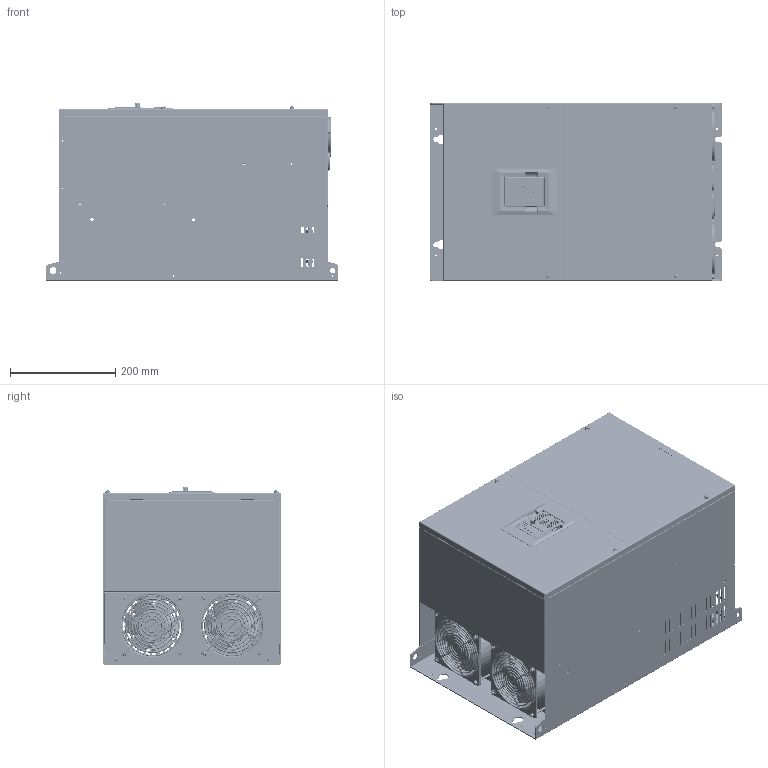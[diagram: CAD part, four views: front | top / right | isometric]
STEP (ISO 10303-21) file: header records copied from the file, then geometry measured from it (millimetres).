
FILE_DESCRIPTION((''),'2;1');
FILE_NAME('GD20-110G-4_ASM','2016-12-13T',('Administrator'),(''),'PRO/ENGINEER BY PARAMETRIC TECHNOLOGY CORPORATION, 2010100','PRO/ENGINEER BY PARAMETRIC TECHNOLOGY CORPORATION, 2010100','');
FILE_SCHEMA(('CONFIG_CONTROL_DESIGN'));
Products named in the file (87): 80310428; S-M4-ZC; S-M6-ZC; 80310428_ASM; 80383797; YMD-55-0D8-SL; BSO-M4-23-ZC; 80383797_ASM; 80481780; 80481780_ASM; 80383801; S-M5-ZC; 80383801_ASM; 80383798; 80481781; 80481781_ASM; 80383799; 80383799_ASM; 80383800; 80383800_ASM; 80383802; 80383802_ASM; 80383278; 61060827_ASM; 80383796; 80383796_ASM; 80383794; NZ-M8-ZC; 80383794_ASM; 80383794SY; 80383795; BSO-M4-10-ZC; 80383795_ASM; 80481779; 80481779_ASM; 80383793; S-M3-ZC; SO-3D5M3-5-ZC; 80383793_ASM; 80383793SY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
Assembly tree (413 placements, depth 5):
  GD20-110G-4_ASM
    41060059_ASM
      61060827_ASM
        80310428_ASM
          80310428
          S-M4-ZC  x6
          S-M6-ZC  x6
        80383797_ASM
          80383797
          YMD-55-0D8-SL  x2
          BSO-M4-23-ZC  x4
        80481780_ASM
          80481780
          S-M4-ZC  x2
        80383801_ASM  x2
          80383801
          S-M5-ZC
        80383798
        80481781_ASM
          80481781
          S-M4-ZC  x2
        80383799_ASM
          80383799
          S-M4-ZC  x13
        80383800_ASM  x2
          80383800
          S-M4-ZC
        80383802_ASM  x8
          80383802
          S-M4-ZC
        80383278  x8
      80383796_ASM
        80383796
        S-M4-ZC  x10
        YMD-55-0D8-SL  x2
      80383794_ASM
        80383794
        S-M6-ZC  x9
        NZ-M8-ZC  x2
        YMD-55-0D8-SL  x2
      80383794SY
      80383795_ASM
        80383795
        BSO-M4-10-ZC  x5
        YMD-55-0D8-SL  x2
      80481779_ASM
        80481779
        YMD-55-0D8-SL  x2
      80383793_ASM
        80383793
        S-M3-ZC  x8
        S-M4-ZC  x10
        YMD-55-0D8-SL  x2
        SO-3D5M3-5-ZC  x2
      80383793SY
      80880315
      61060826_ASM
        86050864_ASM
          86050864
          YMD-55-0D8-SL  x2
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Bounding box: 554 x 338 x 336.55 mm (x, y, z)
Volume: 5412111 mm3; surface area: 3752616.9 mm2
Topology: 421 solids, 421 shells, 27728 faces, 72919 edges, 47144 vertices
Faces by surface type: plane 19132, cylinder 5092, cone 2272, torus 556, sphere 344, bspline 268, extrusion 32, revolution 32
Entity records: 235902 total; most frequent: CARTESIAN_POINT 56003, DIRECTION 37376, ORIENTED_EDGE 36642, EDGE_CURVE 18321, AXIS2_PLACEMENT_3D 12571, VECTOR 12218, LINE 12200, VERTEX_POINT 11742
